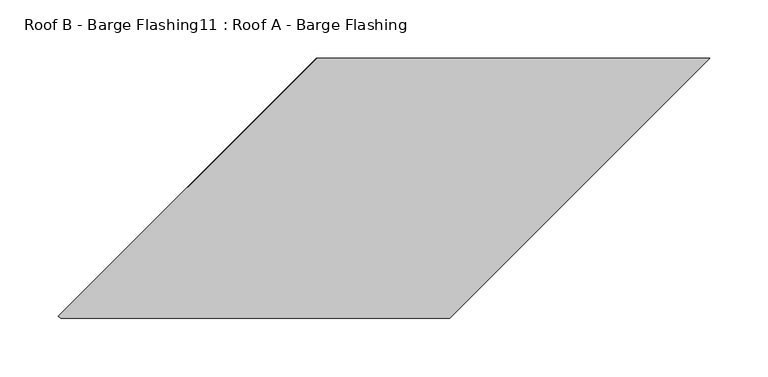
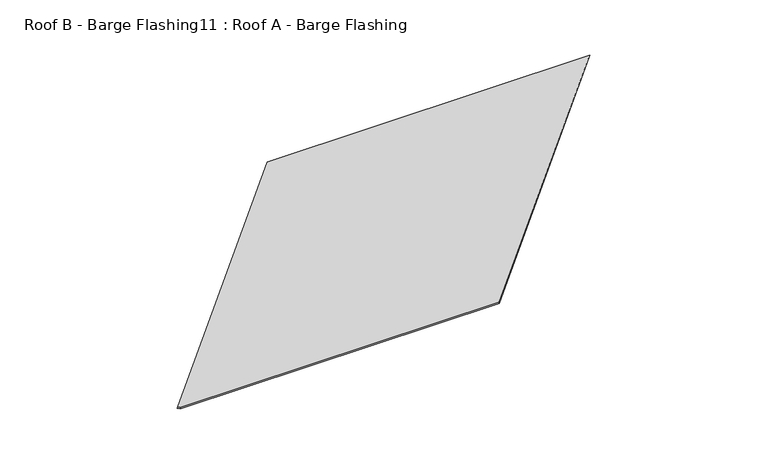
"""IFC4 building model written with IfcOpenShell, lengths in millimetres: proxy geometry, Roof B - Barge Flashing11 : Roof A - Barge Flashing."""

from ifc_helpers import new_model, si_unit, origin, place, context, project, spatial, faceted_brep, source, transform, mapped, element, save


def roof_b_barge_flashing11_roof_a_barge_flashing_02d569b2(model_context):
    return source(origin(), model_context, "Body", "Brep", [
        faceted_brep([(-3983.3144392, -13000.575328, 3147.9403681), (-4204.8145348, -13222.0754236, 3088.5895964), (-4203.0218859, -13223.8680725, 3088.1092575), (-3869.0254236, -13223.8680725, 3088.1092575), (-3645.7326791, -13000.575328, 3147.9403681), (-4205.02159, -13221.8683683, 3086.9886348), (-3983.7285497, -13000.575328, 3146.2839262), (-3646.1467896, -13000.575328, 3146.2839262), (-3869.4395341, -13223.8680725, 3086.4528156), (-4203.0218859, -13223.8680725, 3086.4528156)], [[[0, 1, 2, 3, 4]], [[5, 1, 0, 6]], [[5, 6, 7, 8, 9]], [[7, 4, 3, 8]], [[1, 5, 9, 2]], [[0, 4, 7, 6]], [[3, 2, 9, 8]]]),
    ])


if __name__ == "__main__":
    model = new_model("IFC4")
    model_context = context("Model", 3, world=origin())
    ifc_project = project(units=[si_unit("LENGTHUNIT", "METRE", prefix="MILLI")], contexts=[model_context])
    site = spatial("IfcSite", under=ifc_project)
    building = spatial("IfcBuilding", under=site)
    placement = place(None, origin())
    roof_b_barge_flashing11_roof_a_barge_flashing_shape = roof_b_barge_flashing11_roof_a_barge_flashing_02d569b2(model_context)
    element("IfcBuildingElementProxy", 1, Name="Roof B - Barge Flashing11 : Roof A - Barge Flashing", ObjectType="Roof B - Barge Flashing11 : Roof A - Barge Flashing", at=placement, inside=building, context=model_context, shape_type="MappedRepresentation", body=[
        mapped(roof_b_barge_flashing11_roof_a_barge_flashing_shape, transform((0.0, 0.0, 0.0), x_axis=(1.0, 0.0, 0.0), y_axis=(0.0, 1.0, 0.0), z_axis=(0.0, 0.0, 1.0))),
    ])
    save(model, "model.ifc")
